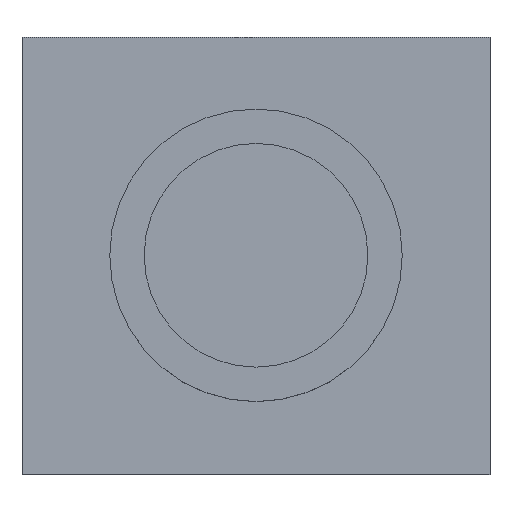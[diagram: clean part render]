
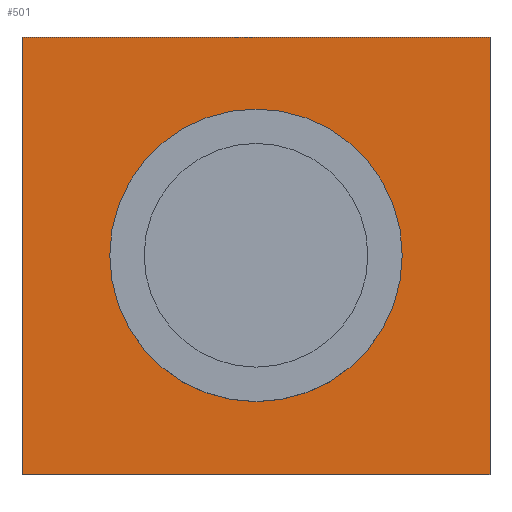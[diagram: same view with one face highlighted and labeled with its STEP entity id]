
A CAD part, top view. The second image highlights one B-rep face of the part: STEP entity #501.
In plain terms, the highlighted planar face has unit normal (0, 0, 1).
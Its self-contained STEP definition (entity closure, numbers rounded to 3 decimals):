
#21 = CARTESIAN_POINT ( 'NONE',  ( -13.6, -12.7, 5. ) ) ;
#26 = LINE ( 'NONE', #652, #273 ) ;
#29 = AXIS2_PLACEMENT_3D ( 'NONE', #611, #237, #746 ) ;
#61 = DIRECTION ( 'NONE',  ( -1., 0., 0. ) ) ;
#73 = CARTESIAN_POINT ( 'NONE',  ( 13.6, 12.7, 5. ) ) ;
#92 = DIRECTION ( 'NONE',  ( 1., 0., 0. ) ) ;
#96 = ORIENTED_EDGE ( 'NONE', *, *, #678, .F. ) ;
#99 = DIRECTION ( 'NONE',  ( 0., 0., 1. ) ) ;
#108 = FACE_BOUND ( 'NONE', #608, .T. ) ;
#163 = EDGE_CURVE ( 'NONE', #177, #181, #251, .T. ) ;
#176 = PLANE ( 'NONE',  #29 ) ;
#177 = VERTEX_POINT ( 'NONE', #73 ) ;
#178 = LINE ( 'NONE', #797, #496 ) ;
#181 = VERTEX_POINT ( 'NONE', #699 ) ;
#194 = AXIS2_PLACEMENT_3D ( 'NONE', #405, #335, #664 ) ;
#202 = EDGE_LOOP ( 'NONE', ( #393, #318, #277, #254 ) ) ;
#207 = DIRECTION ( 'NONE',  ( 1., 0., 0. ) ) ;
#208 = AXIS2_PLACEMENT_3D ( 'NONE', #772, #99, #207 ) ;
#225 = CIRCLE ( 'NONE', #208, 7.75 ) ;
#227 = DIRECTION ( 'NONE',  ( 0., -1., 0. ) ) ;
#236 = VECTOR ( 'NONE', #61, 1000. ) ;
#237 = DIRECTION ( 'NONE',  ( 0., 0., 1. ) ) ;
#251 = LINE ( 'NONE', #462, #236 ) ;
#254 = ORIENTED_EDGE ( 'NONE', *, *, #163, .T. ) ;
#258 = VERTEX_POINT ( 'NONE', #21 ) ;
#273 = VECTOR ( 'NONE', #92, 1000. ) ;
#277 = ORIENTED_EDGE ( 'NONE', *, *, #506, .T. ) ;
#303 = CARTESIAN_POINT ( 'NONE',  ( 13.6, 12.7, 5. ) ) ;
#318 = ORIENTED_EDGE ( 'NONE', *, *, #676, .T. ) ;
#335 = DIRECTION ( 'NONE',  ( 0., 0., 1. ) ) ;
#393 = ORIENTED_EDGE ( 'NONE', *, *, #403, .T. ) ;
#403 = EDGE_CURVE ( 'NONE', #181, #258, #178, .T. ) ;
#405 = CARTESIAN_POINT ( 'NONE',  ( 0., 0., 5. ) ) ;
#425 = VERTEX_POINT ( 'NONE', #429 ) ;
#429 = CARTESIAN_POINT ( 'NONE',  ( 7.75, 0., 5. ) ) ;
#437 = LINE ( 'NONE', #303, #517 ) ;
#439 = VERTEX_POINT ( 'NONE', #564 ) ;
#454 = VERTEX_POINT ( 'NONE', #553 ) ;
#462 = CARTESIAN_POINT ( 'NONE',  ( -13.6, 12.7, 5. ) ) ;
#496 = VECTOR ( 'NONE', #227, 1000. ) ;
#501 = ADVANCED_FACE ( 'NONE', ( #108, #804 ), #176, .T. ) ;
#506 = EDGE_CURVE ( 'NONE', #454, #177, #437, .T. ) ;
#517 = VECTOR ( 'NONE', #562, 1000. ) ;
#553 = CARTESIAN_POINT ( 'NONE',  ( 13.6, -12.7, 5. ) ) ;
#562 = DIRECTION ( 'NONE',  ( 0., 1., 0. ) ) ;
#564 = CARTESIAN_POINT ( 'NONE',  ( -7.75, 0., 5. ) ) ;
#608 = EDGE_LOOP ( 'NONE', ( #719, #96 ) ) ;
#611 = CARTESIAN_POINT ( 'NONE',  ( 0., 0., 5. ) ) ;
#652 = CARTESIAN_POINT ( 'NONE',  ( -13.6, -12.7, 5. ) ) ;
#664 = DIRECTION ( 'NONE',  ( 1., 0., 0. ) ) ;
#676 = EDGE_CURVE ( 'NONE', #258, #454, #26, .T. ) ;
#678 = EDGE_CURVE ( 'NONE', #425, #439, #751, .T. ) ;
#699 = CARTESIAN_POINT ( 'NONE',  ( -13.6, 12.7, 5. ) ) ;
#719 = ORIENTED_EDGE ( 'NONE', *, *, #785, .F. ) ;
#746 = DIRECTION ( 'NONE',  ( 1., 0., 0. ) ) ;
#751 = CIRCLE ( 'NONE', #194, 7.75 ) ;
#772 = CARTESIAN_POINT ( 'NONE',  ( 0., 0., 5. ) ) ;
#785 = EDGE_CURVE ( 'NONE', #439, #425, #225, .T. ) ;
#797 = CARTESIAN_POINT ( 'NONE',  ( -13.6, 12.7, 5. ) ) ;
#804 = FACE_OUTER_BOUND ( 'NONE', #202, .T. ) ;
